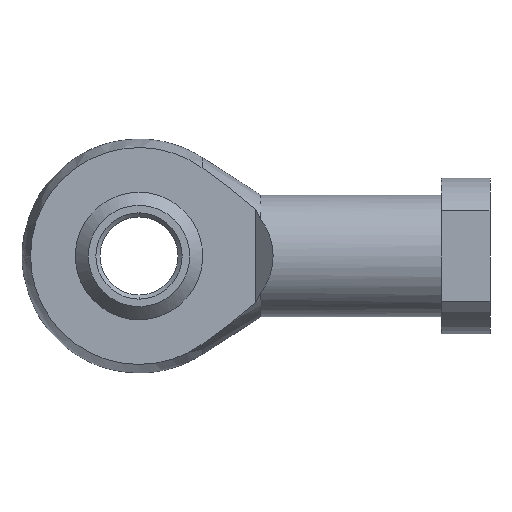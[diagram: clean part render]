
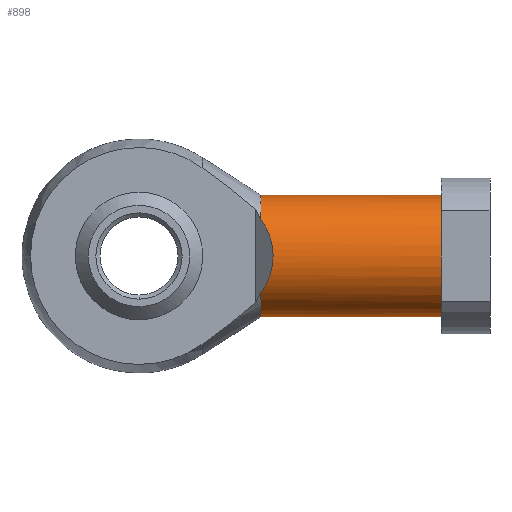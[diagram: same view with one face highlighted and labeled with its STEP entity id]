
A CAD part, front view. The second image highlights one B-rep face of the part: STEP entity #898.
In plain terms, the highlighted cylindrical face has radius 6.25 mm (diameter 12.5 mm), a partial arc.
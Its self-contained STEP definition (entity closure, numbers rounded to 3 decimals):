
#50 = EDGE_CURVE ( 'NONE', #723, #90, #1519, .T. ) ;
#52 = EDGE_LOOP ( 'NONE', ( #1003, #1227, #1020, #1094, #265, #790 ) ) ;
#90 = VERTEX_POINT ( 'NONE', #459 ) ;
#99 = EDGE_CURVE ( 'NONE', #1382, #1057, #899, .T. ) ;
#154 = CARTESIAN_POINT ( 'NONE',  ( 31., 0., 0. ) ) ;
#167 = CARTESIAN_POINT ( 'NONE',  ( 21.75, 0., 0. ) ) ;
#180 = CARTESIAN_POINT ( 'NONE',  ( 14.231, -6.731, 1.442 ) ) ;
#243 =( BOUNDED_CURVE ( )  B_SPLINE_CURVE ( 3, ( #998, #180, #1287, #572 ),
 .UNSPECIFIED., .F., .F. ) 
 B_SPLINE_CURVE_WITH_KNOTS ( ( 4, 4 ),
 ( 2.498, 3.785 ),
 .UNSPECIFIED. ) 
 CURVE ( )  GEOMETRIC_REPRESENTATION_ITEM ( )  RATIONAL_B_SPLINE_CURVE ( ( 1., 0.867, 0.867, 1. ) ) 
 REPRESENTATION_ITEM ( '' )  );
#265 = ORIENTED_EDGE ( 'NONE', *, *, #480, .T. ) ;
#282 = DIRECTION ( 'NONE',  ( -1., 0., 0. ) ) ;
#340 = CARTESIAN_POINT ( 'NONE',  ( 31., 0., 6.25 ) ) ;
#428 = CARTESIAN_POINT ( 'NONE',  ( 31., 0., -6.25 ) ) ;
#451 = AXIS2_PLACEMENT_3D ( 'NONE', #154, #777, #1009 ) ;
#459 = CARTESIAN_POINT ( 'NONE',  ( 12.5, 0., 6.25 ) ) ;
#480 = EDGE_CURVE ( 'NONE', #1308, #552, #243, .T. ) ;
#552 = VERTEX_POINT ( 'NONE', #1140 ) ;
#572 = CARTESIAN_POINT ( 'NONE',  ( 12.5, -5., -3.75 ) ) ;
#581 = CIRCLE ( 'NONE', #451, 6.25 ) ;
#628 = EDGE_CURVE ( 'NONE', #1382, #723, #581, .T. ) ;
#678 = CARTESIAN_POINT ( 'NONE',  ( 21.75, 0., 6.25 ) ) ;
#711 = EDGE_CURVE ( 'NONE', #90, #1308, #1534, .T. ) ;
#723 = VERTEX_POINT ( 'NONE', #340 ) ;
#732 = FACE_OUTER_BOUND ( 'NONE', #52, .T. ) ;
#777 = DIRECTION ( 'NONE',  ( -1., 0., 0. ) ) ;
#790 = ORIENTED_EDGE ( 'NONE', *, *, #1139, .T. ) ;
#826 = DIRECTION ( 'NONE',  ( 0., 0., 1. ) ) ;
#835 = CARTESIAN_POINT ( 'NONE',  ( 12.5, 0., 0. ) ) ;
#838 = DIRECTION ( 'NONE',  ( 0., 0., 1. ) ) ;
#898 = ADVANCED_FACE ( 'NONE', ( #732 ), #1435, .T. ) ;
#899 = LINE ( 'NONE', #1396, #1164 ) ;
#916 = CIRCLE ( 'NONE', #1338, 6.25 ) ;
#937 = DIRECTION ( 'NONE',  ( 0., 0., 1. ) ) ;
#998 = CARTESIAN_POINT ( 'NONE',  ( 12.5, -5., 3.75 ) ) ;
#1003 = ORIENTED_EDGE ( 'NONE', *, *, #99, .F. ) ;
#1009 = DIRECTION ( 'NONE',  ( 0., 0., 1. ) ) ;
#1020 = ORIENTED_EDGE ( 'NONE', *, *, #50, .T. ) ;
#1057 = VERTEX_POINT ( 'NONE', #1463 ) ;
#1094 = ORIENTED_EDGE ( 'NONE', *, *, #711, .T. ) ;
#1139 = EDGE_CURVE ( 'NONE', #552, #1057, #916, .T. ) ;
#1140 = CARTESIAN_POINT ( 'NONE',  ( 12.5, -5., -3.75 ) ) ;
#1157 = DIRECTION ( 'NONE',  ( 1., 0., 0. ) ) ;
#1164 = VECTOR ( 'NONE', #1296, 1000. ) ;
#1179 = VECTOR ( 'NONE', #1385, 1000. ) ;
#1227 = ORIENTED_EDGE ( 'NONE', *, *, #628, .T. ) ;
#1241 = AXIS2_PLACEMENT_3D ( 'NONE', #167, #282, #826 ) ;
#1287 = CARTESIAN_POINT ( 'NONE',  ( 14.231, -6.731, -1.442 ) ) ;
#1296 = DIRECTION ( 'NONE',  ( -1., 0., 0. ) ) ;
#1302 = CARTESIAN_POINT ( 'NONE',  ( 12.5, 0., 0. ) ) ;
#1308 = VERTEX_POINT ( 'NONE', #1476 ) ;
#1338 = AXIS2_PLACEMENT_3D ( 'NONE', #835, #1157, #937 ) ;
#1382 = VERTEX_POINT ( 'NONE', #428 ) ;
#1385 = DIRECTION ( 'NONE',  ( -1., 0., 0. ) ) ;
#1396 = CARTESIAN_POINT ( 'NONE',  ( 21.75, 0., -6.25 ) ) ;
#1411 = AXIS2_PLACEMENT_3D ( 'NONE', #1302, #1552, #838 ) ;
#1435 = CYLINDRICAL_SURFACE ( 'NONE', #1241, 6.25 ) ;
#1463 = CARTESIAN_POINT ( 'NONE',  ( 12.5, 0., -6.25 ) ) ;
#1476 = CARTESIAN_POINT ( 'NONE',  ( 12.5, -5., 3.75 ) ) ;
#1519 = LINE ( 'NONE', #678, #1179 ) ;
#1534 = CIRCLE ( 'NONE', #1411, 6.25 ) ;
#1552 = DIRECTION ( 'NONE',  ( 1., 0., 0. ) ) ;
